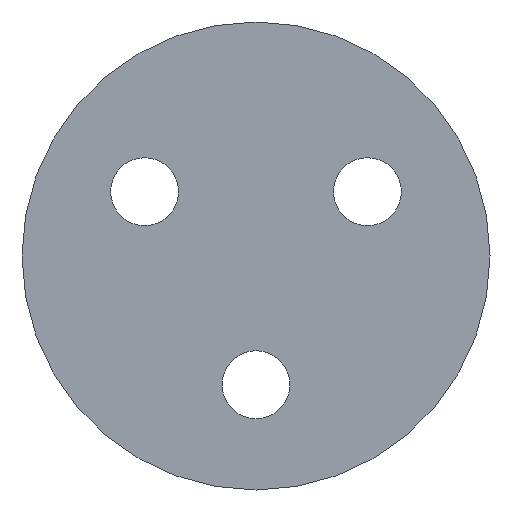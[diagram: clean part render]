
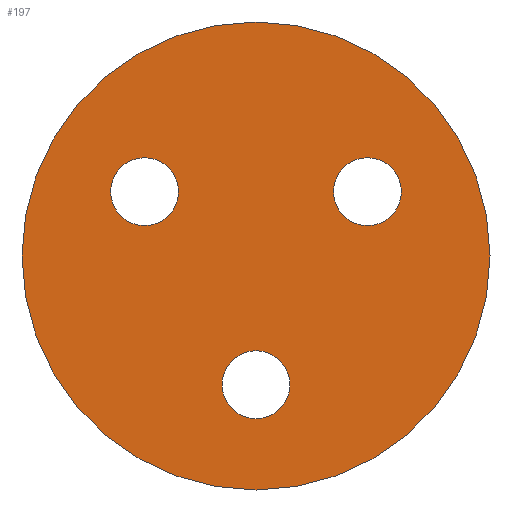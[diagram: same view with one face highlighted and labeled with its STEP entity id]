
A CAD part, front view. The second image highlights one B-rep face of the part: STEP entity #197.
In plain terms, the highlighted planar face has unit normal (0, -1, 0).
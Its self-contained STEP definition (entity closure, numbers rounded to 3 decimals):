
#12 = DIRECTION ( 'NONE',  ( 0., 0., 1. ) ) ;
#17 = EDGE_LOOP ( 'NONE', ( #43, #156 ) ) ;
#21 = AXIS2_PLACEMENT_3D ( 'NONE', #76, #186, #46 ) ;
#22 = CARTESIAN_POINT ( 'NONE',  ( 0., 0., 0. ) ) ;
#27 = DIRECTION ( 'NONE',  ( 0., 1., 0. ) ) ;
#32 = CIRCLE ( 'NONE', #312, 10. ) ;
#37 = DIRECTION ( 'NONE',  ( 0., 1., 0. ) ) ;
#42 = AXIS2_PLACEMENT_3D ( 'NONE', #179, #157, #128 ) ;
#43 = ORIENTED_EDGE ( 'NONE', *, *, #92, .T. ) ;
#44 = VERTEX_POINT ( 'NONE', #355 ) ;
#45 = AXIS2_PLACEMENT_3D ( 'NONE', #62, #153, #87 ) ;
#46 = DIRECTION ( 'NONE',  ( 0., 0., 1. ) ) ;
#50 = AXIS2_PLACEMENT_3D ( 'NONE', #22, #220, #54 ) ;
#54 = DIRECTION ( 'NONE',  ( 0., 0., 1. ) ) ;
#62 = CARTESIAN_POINT ( 'NONE',  ( 4.763, 0., 2.75 ) ) ;
#63 = EDGE_LOOP ( 'NONE', ( #116, #242 ) ) ;
#66 = CARTESIAN_POINT ( 'NONE',  ( -4.763, 0., 2.75 ) ) ;
#72 = EDGE_CURVE ( 'NONE', #159, #341, #139, .T. ) ;
#76 = CARTESIAN_POINT ( 'NONE',  ( 0., 0., 0. ) ) ;
#79 = CIRCLE ( 'NONE', #42, 1.45 ) ;
#81 = FACE_OUTER_BOUND ( 'NONE', #293, .T. ) ;
#82 = FACE_BOUND ( 'NONE', #91, .T. ) ;
#83 = CARTESIAN_POINT ( 'NONE',  ( 0., 0., -10. ) ) ;
#87 = DIRECTION ( 'NONE',  ( 0., 0., 1. ) ) ;
#90 = ORIENTED_EDGE ( 'NONE', *, *, #224, .F. ) ;
#91 = EDGE_LOOP ( 'NONE', ( #290, #171 ) ) ;
#92 = EDGE_CURVE ( 'NONE', #257, #344, #126, .T. ) ;
#101 = CIRCLE ( 'NONE', #347, 1.45 ) ;
#108 = CARTESIAN_POINT ( 'NONE',  ( 4.763, 0., 1.3 ) ) ;
#112 = AXIS2_PLACEMENT_3D ( 'NONE', #193, #27, #336 ) ;
#116 = ORIENTED_EDGE ( 'NONE', *, *, #327, .T. ) ;
#126 = CIRCLE ( 'NONE', #112, 1.45 ) ;
#128 = DIRECTION ( 'NONE',  ( 0., 0., 1. ) ) ;
#139 = CIRCLE ( 'NONE', #21, 10. ) ;
#141 = CARTESIAN_POINT ( 'NONE',  ( 0., 0., -6.95 ) ) ;
#146 = CIRCLE ( 'NONE', #287, 1.45 ) ;
#153 = DIRECTION ( 'NONE',  ( 0., 1., 0. ) ) ;
#156 = ORIENTED_EDGE ( 'NONE', *, *, #301, .T. ) ;
#157 = DIRECTION ( 'NONE',  ( 0., 1., 0. ) ) ;
#159 = VERTEX_POINT ( 'NONE', #83 ) ;
#160 = CARTESIAN_POINT ( 'NONE',  ( 0., 0., 10. ) ) ;
#163 = CARTESIAN_POINT ( 'NONE',  ( 0., 0., -5.5 ) ) ;
#168 = DIRECTION ( 'NONE',  ( 0., 1., 0. ) ) ;
#169 = VERTEX_POINT ( 'NONE', #108 ) ;
#171 = ORIENTED_EDGE ( 'NONE', *, *, #232, .T. ) ;
#177 = EDGE_CURVE ( 'NONE', #44, #198, #101, .T. ) ;
#179 = CARTESIAN_POINT ( 'NONE',  ( 0., 0., -5.5 ) ) ;
#182 = CIRCLE ( 'NONE', #192, 1.45 ) ;
#186 = DIRECTION ( 'NONE',  ( 0., 1., 0. ) ) ;
#190 = FACE_BOUND ( 'NONE', #63, .T. ) ;
#192 = AXIS2_PLACEMENT_3D ( 'NONE', #325, #37, #207 ) ;
#193 = CARTESIAN_POINT ( 'NONE',  ( -4.763, 0., 2.75 ) ) ;
#195 = FACE_BOUND ( 'NONE', #17, .T. ) ;
#197 = ADVANCED_FACE ( 'NONE', ( #81, #190, #82, #195 ), #274, .F. ) ;
#198 = VERTEX_POINT ( 'NONE', #141 ) ;
#205 = ORIENTED_EDGE ( 'NONE', *, *, #72, .F. ) ;
#207 = DIRECTION ( 'NONE',  ( 0., 0., 1. ) ) ;
#213 = CARTESIAN_POINT ( 'NONE',  ( -4.763, 0., 4.2 ) ) ;
#220 = DIRECTION ( 'NONE',  ( 0., 1., 0. ) ) ;
#224 = EDGE_CURVE ( 'NONE', #341, #159, #32, .T. ) ;
#227 = CARTESIAN_POINT ( 'NONE',  ( -4.763, 0., 1.3 ) ) ;
#232 = EDGE_CURVE ( 'NONE', #284, #169, #247, .T. ) ;
#242 = ORIENTED_EDGE ( 'NONE', *, *, #177, .T. ) ;
#247 = CIRCLE ( 'NONE', #45, 1.45 ) ;
#257 = VERTEX_POINT ( 'NONE', #227 ) ;
#274 = PLANE ( 'NONE',  #50 ) ;
#282 = EDGE_CURVE ( 'NONE', #169, #284, #182, .T. ) ;
#284 = VERTEX_POINT ( 'NONE', #350 ) ;
#287 = AXIS2_PLACEMENT_3D ( 'NONE', #66, #292, #12 ) ;
#290 = ORIENTED_EDGE ( 'NONE', *, *, #282, .T. ) ;
#292 = DIRECTION ( 'NONE',  ( 0., 1., 0. ) ) ;
#293 = EDGE_LOOP ( 'NONE', ( #205, #90 ) ) ;
#301 = EDGE_CURVE ( 'NONE', #344, #257, #146, .T. ) ;
#308 = DIRECTION ( 'NONE',  ( 0., 1., 0. ) ) ;
#312 = AXIS2_PLACEMENT_3D ( 'NONE', #337, #168, #315 ) ;
#315 = DIRECTION ( 'NONE',  ( 0., 0., 1. ) ) ;
#325 = CARTESIAN_POINT ( 'NONE',  ( 4.763, 0., 2.75 ) ) ;
#327 = EDGE_CURVE ( 'NONE', #198, #44, #79, .T. ) ;
#336 = DIRECTION ( 'NONE',  ( 0., 0., 1. ) ) ;
#337 = CARTESIAN_POINT ( 'NONE',  ( 0., 0., 0. ) ) ;
#341 = VERTEX_POINT ( 'NONE', #160 ) ;
#344 = VERTEX_POINT ( 'NONE', #213 ) ;
#347 = AXIS2_PLACEMENT_3D ( 'NONE', #163, #308, #360 ) ;
#350 = CARTESIAN_POINT ( 'NONE',  ( 4.763, 0., 4.2 ) ) ;
#355 = CARTESIAN_POINT ( 'NONE',  ( 0., 0., -4.05 ) ) ;
#360 = DIRECTION ( 'NONE',  ( 0., 0., 1. ) ) ;
